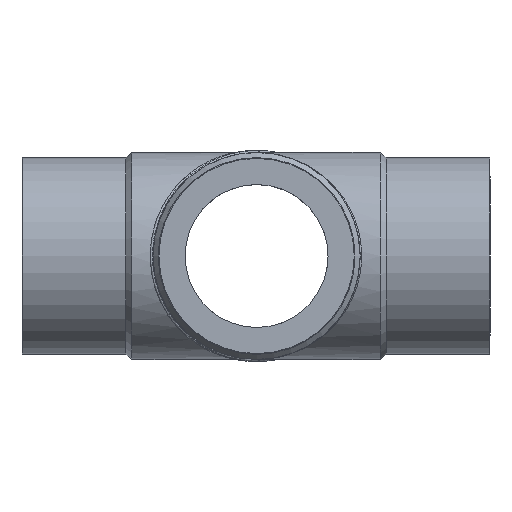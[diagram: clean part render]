
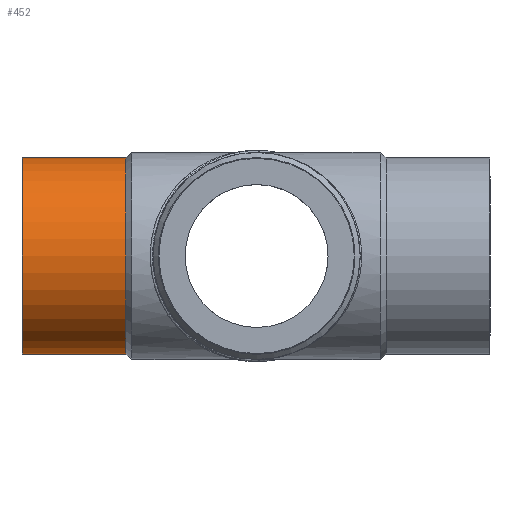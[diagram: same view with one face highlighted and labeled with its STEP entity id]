
A CAD part, front view. The second image highlights one B-rep face of the part: STEP entity #452.
In plain terms, the highlighted cylindrical face has radius 125 mm (diameter 250 mm), a full revolution.
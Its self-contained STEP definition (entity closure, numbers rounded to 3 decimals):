
#46=CIRCLE('',#516,125.);
#47=CIRCLE('',#518,125.);
#70=CYLINDRICAL_SURFACE('',#517,125.);
#117=ORIENTED_EDGE('',*,*,#227,.T.);
#118=ORIENTED_EDGE('',*,*,#226,.T.);
#226=EDGE_CURVE('',#281,#281,#46,.T.);
#227=EDGE_CURVE('',#282,#282,#47,.T.);
#281=VERTEX_POINT('',#948);
#282=VERTEX_POINT('',#951);
#334=EDGE_LOOP('',(#117));
#335=EDGE_LOOP('',(#118));
#392=FACE_BOUND('',#334,.T.);
#393=FACE_BOUND('',#335,.T.);
#452=ADVANCED_FACE('',(#392,#393),#70,.T.);
#516=AXIS2_PLACEMENT_3D('',#947,#590,#591);
#517=AXIS2_PLACEMENT_3D('',#949,#592,#593);
#518=AXIS2_PLACEMENT_3D('',#950,#594,#595);
#590=DIRECTION('',(-1.,0.,0.));
#591=DIRECTION('',(0.,0.,1.));
#592=DIRECTION('',(-1.,0.,0.));
#593=DIRECTION('',(0.,0.,1.));
#594=DIRECTION('',(1.,0.,0.));
#595=DIRECTION('',(0.,0.,-1.));
#947=CARTESIAN_POINT('',(-166.,0.,0.));
#948=CARTESIAN_POINT('',(-166.,0.,125.));
#949=CARTESIAN_POINT('',(-60.,0.,0.));
#950=CARTESIAN_POINT('',(-297.,0.,0.));
#951=CARTESIAN_POINT('',(-297.,0.,-125.));
